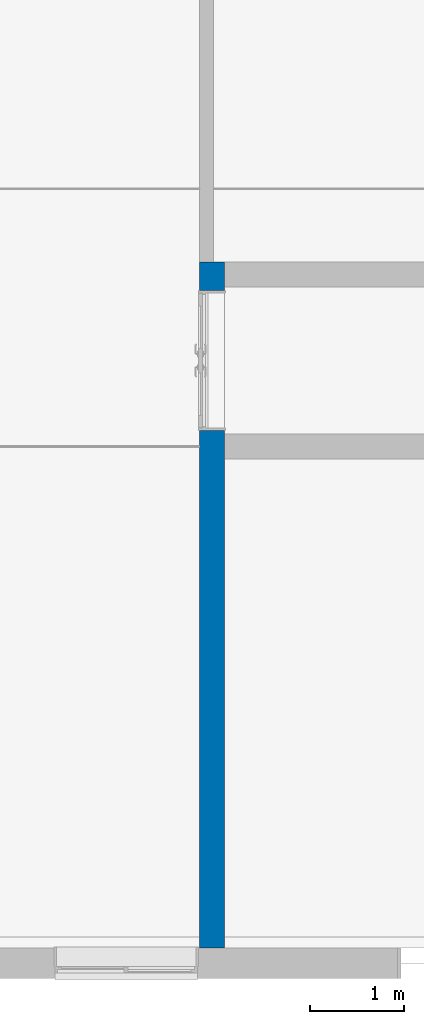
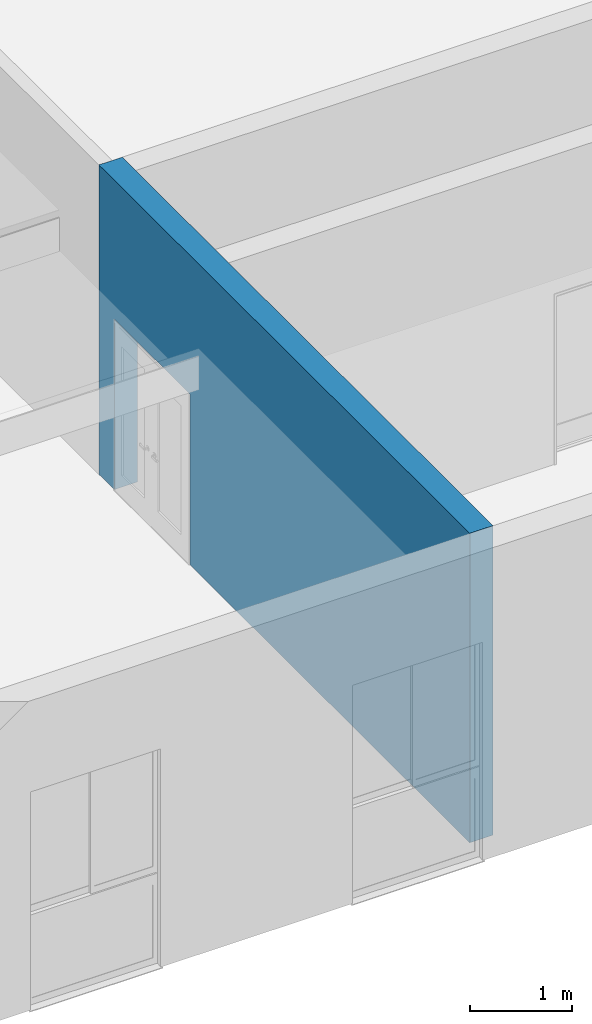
# One storey, part 2 of 15: 1 wall, 1 opening.
"""IFC4X3 building model written with IfcOpenShell, lengths in millimetres."""

import ifcopenshell
import ifcopenshell.guid

model = None  # the IFC model being written
_history = None  # IfcOwnerHistory: only IFC2X3 demands one
_inside = {}  # id of a spatial element -> (the spatial element, [elements in it])
_under = {}  # id of a project, library or spatial element -> (it, [spatial elements below it])
_declared = {}  # id of a project -> (the project, [libraries it declares])
_typed = {}  # id of a type object -> (the type object, [elements of that type])
_made_of = {}  # id of a material, layer set ... -> (it, [elements and type objects made of it])


def new_model(schema):
    """Start an empty IFC model of exactly this schema.

    Asked for "IFC4X3", IfcOpenShell would pick the latest addendum, in which some entities
    have other attributes; the version numbers below select the first issue.
    IFC2X3 requires an IfcOwnerHistory on every rooted entity: one is made here for all.
    """
    global model, _history
    if schema == "IFC4X3":
        model = ifcopenshell.file(schema_version=(4, 3, 0, 0))
    else:
        model = ifcopenshell.file(schema=schema)
    _inside.clear()
    _under.clear()
    _declared.clear()
    _typed.clear()
    _made_of.clear()
    _history = None
    if model.schema == "IFC2X3":
        org = make("IfcOrganization", Name="unknown")
        user = make(
            "IfcPersonAndOrganization",
            ThePerson=make("IfcPerson", FamilyName="unknown"),
            TheOrganization=org,
        )
        app = make(
            "IfcApplication",
            ApplicationDeveloper=org,
            Version="unknown",
            ApplicationFullName="unknown",
            ApplicationIdentifier="unknown",
        )
        _history = make(
            "IfcOwnerHistory",
            OwningUser=user,
            OwningApplication=app,
            ChangeAction="ADDED",
            CreationDate=0,
        )
    return model


def make(cls, **values):
    """One entity of the class cls with the attributes given. An attribute that is None is left unset."""
    return model.create_entity(
        cls, **{name: value for name, value in values.items() if value is not None}
    )


def entity(cls, *values):
    """Any entity or typed value of the class cls, its attributes in the order of the schema. None: left unset."""
    e = model.create_entity(cls)
    for i, value in enumerate(values):
        if value is not None:
            e[i] = value
    return e


def rooted(cls, **values):
    """An entity with a GlobalId (a new one), such as an element, a storey or a relation."""
    return make(cls, GlobalId=ifcopenshell.guid.new(), OwnerHistory=_history, **values)


def si_unit(unit_type, name, prefix=None):
    """IfcSIUnit, for example si_unit("LENGTHUNIT", "METRE", prefix="MILLI")."""
    return make("IfcSIUnit", UnitType=unit_type, Prefix=prefix, Name=name)


def converted_unit(unit_type, name, factor, base, dimensions=None, offset=None):
    """IfcConversionBasedUnit, such as the inch: factor (a typed value) times the base unit."""
    return make(
        "IfcConversionBasedUnit"
        if offset is None
        else "IfcConversionBasedUnitWithOffset",
        ConversionOffset=offset,
        Dimensions=None
        if dimensions is None
        else entity("IfcDimensionalExponents", *dimensions),
        UnitType=unit_type,
        Name=name,
        ConversionFactor=make(
            "IfcMeasureWithUnit", ValueComponent=factor, UnitComponent=base
        ),
    )


def derived_unit(unit_type, elements):
    """IfcDerivedUnit: a product of units, each with its exponent."""
    return make(
        "IfcDerivedUnit",
        Elements=[
            make("IfcDerivedUnitElement", Unit=unit, Exponent=power)
            for unit, power in elements
        ],
        UnitType=unit_type,
    )


def assignment(units):
    """IfcUnitAssignment: the units of a project."""
    return None if units is None else make("IfcUnitAssignment", Units=units)


def point(xyz):
    """IfcCartesianPoint."""
    return None if xyz is None else make("IfcCartesianPoint", Coordinates=xyz)


def direction(xyz):
    """IfcDirection."""
    return None if xyz is None else make("IfcDirection", DirectionRatios=xyz)


def frame(location, z_axis=None, x_axis=None):
    """IfcAxis2Placement3D, a coordinate frame: its origin and axes. An axis left out is left unset."""
    return make(
        "IfcAxis2Placement3D",
        Location=point(location),
        Axis=direction(z_axis),
        RefDirection=direction(x_axis),
    )


def frame_2d(location, x_axis=None):
    """IfcAxis2Placement2D, a coordinate frame in the plane: its origin and x axis."""
    return make(
        "IfcAxis2Placement2D", Location=point(location), RefDirection=direction(x_axis)
    )


def origin():
    """The frame at (0, 0, 0) with its axes left unset."""
    return frame((0.0, 0.0, 0.0))


def place(relative_to, where):
    """IfcLocalPlacement: puts the frame where relative to a parent placement (None: the world)."""
    return make(
        "IfcLocalPlacement", PlacementRelTo=relative_to, RelativePlacement=where
    )


def context(
    kind, dimensions, precision=None, world=None, true_north=None, identifier=None
):
    """IfcGeometricRepresentationContext, for example the 3D "Model" context."""
    return make(
        "IfcGeometricRepresentationContext",
        ContextIdentifier=identifier,
        ContextType=kind,
        CoordinateSpaceDimension=dimensions,
        Precision=precision,
        WorldCoordinateSystem=world,
        TrueNorth=true_north,
    )


def subcontext(parent, identifier, kind, view, scale=None):
    """IfcGeometricRepresentationSubContext, for example "Body" below "Model"."""
    return make(
        "IfcGeometricRepresentationSubContext",
        ContextIdentifier=identifier,
        ContextType=kind,
        ParentContext=parent,
        TargetScale=scale,
        TargetView=view,
    )


def project(units=None, contexts=None):
    """IfcProject with its units and contexts."""
    return rooted(
        "IfcProject",
        Name="project",
        RepresentationContexts=contexts,
        UnitsInContext=assignment(units),
    )


def spatial(cls, under=None, at=None, **own):
    """A site, building, storey or space (cls), placed at a placement, below another one or the project."""
    s = rooted(cls, ObjectPlacement=at, **own)
    if under is not None:
        _under.setdefault(under.id(), (under, []))[1].append(s)
    return s


def profile(cls, at=None, kind="AREA", **sizes):
    """A parametric profile (cls). Its sizes go by their IFC names, for example OverallWidth=200.0."""
    return make(cls, ProfileType=kind, Position=at, **sizes)


def rectangle(**sizes):
    """IfcRectangleProfileDef."""
    return profile("IfcRectangleProfileDef", **sizes)


def extrude(swept, where, along, depth):
    """IfcExtrudedAreaSolid: the profile swept, set in the frame where, extruded along a direction by depth."""
    return make(
        "IfcExtrudedAreaSolid",
        SweptArea=swept,
        Position=where,
        ExtrudedDirection=direction(along),
        Depth=depth,
    )


def shape(context_of_items, identifier, shape_type, items):
    """IfcShapeRepresentation: the items that make up one representation, for example the "Body"."""
    return make(
        "IfcShapeRepresentation",
        ContextOfItems=context_of_items,
        RepresentationIdentifier=identifier,
        RepresentationType=shape_type,
        Items=items,
    )


def material(Name=None, Category=None):
    """IfcMaterial."""
    return make("IfcMaterial", Name=Name, Category=Category)


def layer(
    of_material, thickness, ventilated=None, Name=None, Category=None, Priority=None
):
    """IfcMaterialLayer: one layer of a wall or slab, of a material (None: an air gap)."""
    return make(
        "IfcMaterialLayer",
        Material=of_material,
        LayerThickness=thickness,
        IsVentilated=ventilated,
        Name=Name,
        Category=Category,
        Priority=Priority,
    )


def layer_set(layers, Name=None):
    """IfcMaterialLayerSet."""
    return make("IfcMaterialLayerSet", MaterialLayers=layers, LayerSetName=Name)


def made_of(thing, what):
    """Note that an element or type object is made of a material, layer set ...; save() writes the relation."""
    if what is not None:
        _made_of.setdefault(what.id(), (what, []))[1].append(thing)
    return thing


def type_object(cls, material=None, **own):
    """A type object (cls), such as IfcWallType, which elements share."""
    return made_of(rooted(cls, **own), material)


def element(
    cls,
    number,
    at=None,
    inside=None,
    cuts=None,
    type_object=None,
    material=None,
    context=None,
    identifier="Body",
    shape_type=None,
    held_by="IfcProductDefinitionShape",
    body=None,
    shapes=None,
    **own,
):
    """One element of the class cls, such as IfcWall. Its Tag is "e" and its number.

    at: its placement. inside: the storey or other place that contains it. cuts: it is an
    opening in that element (IfcRelVoidsElement). A single representation is given by context,
    identifier, shape_type and body (its items); several are given by shapes. held_by: the class
    of the entity that holds the representations. save() writes the other relations.
    """
    e = rooted(cls, Tag="e%d" % number, ObjectPlacement=at, **own)
    if body is not None:
        shapes = [shape(context, identifier, shape_type, body)]
    if shapes is not None:
        e.Representation = make(held_by, Representations=shapes)
    if inside is not None:
        _inside.setdefault(inside.id(), (inside, []))[1].append(e)
    if cuts is not None:
        rooted(
            "IfcRelVoidsElement", RelatingBuildingElement=cuts, RelatedOpeningElement=e
        )
    if type_object is not None:
        _typed.setdefault(type_object.id(), (type_object, []))[1].append(e)
    return made_of(e, material)


def aggregate(whole, parts):
    """IfcRelAggregates: a whole, such as a stair, and the parts it consists of."""
    return rooted("IfcRelAggregates", RelatingObject=whole, RelatedObjects=parts)


def save(model, path):
    """Write the relations noted so far, then the file.

    IfcRelAggregates (storeys below a building ...), IfcRelContainedInSpatialStructure (elements
    in a storey), IfcRelDefinesByType, IfcRelAssociatesMaterial and IfcRelDeclares: one each for
    every whole, place, type object, material and project.
    """
    for whole, parts in _under.values():
        aggregate(whole, parts)
    for where, things in _inside.values():
        rooted(
            "IfcRelContainedInSpatialStructure",
            RelatedElements=things,
            RelatingStructure=where,
        )
    for kind, things in _typed.values():
        rooted("IfcRelDefinesByType", RelatedObjects=things, RelatingType=kind)
    for what, things in _made_of.values():
        rooted("IfcRelAssociatesMaterial", RelatedObjects=things, RelatingMaterial=what)
    for by, libraries in _declared.values():
        rooted("IfcRelDeclares", RelatingContext=by, RelatedDefinitions=libraries)
    model.write(path)


model = new_model("IFC4X3")

# Units and contexts
model_context = context("Model", 3, precision=0.01, world=origin(), true_north=direction((6.12303176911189e-17, 1.0)))
body_context = subcontext(model_context, "Body", "Model", "MODEL_VIEW")
ifc_project = project(units=[si_unit("LENGTHUNIT", "METRE", prefix="MILLI"), si_unit("AREAUNIT", "SQUARE_METRE"), si_unit("VOLUMEUNIT", "CUBIC_METRE"), converted_unit("PLANEANGLEUNIT", "DEGREE", entity("IfcPlaneAngleMeasure", 0.0174532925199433), si_unit("PLANEANGLEUNIT", "RADIAN"), dimensions=[0, 0, 0, 0, 0, 0, 0]), si_unit("MASSUNIT", "GRAM", prefix="KILO"), derived_unit("MASSDENSITYUNIT", [(si_unit("MASSUNIT", "GRAM", prefix="KILO"), 1), (si_unit("LENGTHUNIT", "METRE"), -3)]), derived_unit("IONCONCENTRATIONUNIT", [(si_unit("MASSUNIT", "GRAM", prefix="KILO"), 1), (si_unit("LENGTHUNIT", "METRE"), -3)]), derived_unit("MOMENTOFINERTIAUNIT", [(si_unit("LENGTHUNIT", "METRE"), 4)]), si_unit("TIMEUNIT", "SECOND"), si_unit("FREQUENCYUNIT", "HERTZ"), si_unit("THERMODYNAMICTEMPERATUREUNIT", "DEGREE_CELSIUS"), derived_unit("THERMALTRANSMITTANCEUNIT", [(si_unit("MASSUNIT", "GRAM", prefix="KILO"), 1), (si_unit("THERMODYNAMICTEMPERATUREUNIT", "KELVIN"), -1), (si_unit("TIMEUNIT", "SECOND"), -3)]), derived_unit("THERMALCONDUCTANCEUNIT", [(si_unit("MASSUNIT", "GRAM", prefix="KILO"), 1), (si_unit("THERMODYNAMICTEMPERATUREUNIT", "KELVIN"), -1), (si_unit("TIMEUNIT", "SECOND"), -3), (si_unit("LENGTHUNIT", "METRE"), 1)]), derived_unit("VOLUMETRICFLOWRATEUNIT", [(si_unit("LENGTHUNIT", "METRE", prefix="DECI"), 3), (si_unit("TIMEUNIT", "SECOND"), -1)]), derived_unit("MASSFLOWRATEUNIT", [(si_unit("MASSUNIT", "GRAM", prefix="KILO"), 1), (si_unit("TIMEUNIT", "SECOND"), -1)]), derived_unit("ROTATIONALFREQUENCYUNIT", [(si_unit("TIMEUNIT", "SECOND"), -1)]), si_unit("ELECTRICCURRENTUNIT", "AMPERE"), si_unit("ELECTRICVOLTAGEUNIT", "VOLT"), si_unit("POWERUNIT", "WATT"), si_unit("FORCEUNIT", "NEWTON", prefix="KILO"), si_unit("ILLUMINANCEUNIT", "LUX"), si_unit("LUMINOUSFLUXUNIT", "LUMEN"), si_unit("LUMINOUSINTENSITYUNIT", "CANDELA"), si_unit("ENERGYUNIT", "JOULE"), derived_unit("USERDEFINED", [(si_unit("MASSUNIT", "GRAM", prefix="KILO"), -1), (si_unit("LENGTHUNIT", "METRE"), -2), (si_unit("TIMEUNIT", "SECOND"), 3), (si_unit("LUMINOUSFLUXUNIT", "LUMEN"), 1)]), derived_unit("USERDEFINED", [(si_unit("MASSUNIT", "GRAM", prefix="KILO"), 1), (si_unit("TIMEUNIT", "SECOND"), -3), (si_unit("LENGTHUNIT", "METRE"), 3), (si_unit("ELECTRICCURRENTUNIT", "AMPERE"), -2)]), derived_unit("SOUNDPOWERUNIT", [(si_unit("MASSUNIT", "GRAM", prefix="KILO"), 1), (si_unit("TIMEUNIT", "SECOND"), -3), (si_unit("LENGTHUNIT", "METRE"), 2)]), derived_unit("SOUNDPRESSUREUNIT", [(si_unit("MASSUNIT", "GRAM", prefix="KILO"), 1), (si_unit("LENGTHUNIT", "METRE"), -1), (si_unit("TIMEUNIT", "SECOND"), -2)]), derived_unit("LINEARVELOCITYUNIT", [(si_unit("LENGTHUNIT", "METRE"), 1), (si_unit("TIMEUNIT", "SECOND"), -1)]), si_unit("PRESSUREUNIT", "PASCAL"), derived_unit("USERDEFINED", [(si_unit("MASSUNIT", "GRAM", prefix="KILO"), 1), (si_unit("LENGTHUNIT", "METRE"), -2), (si_unit("TIMEUNIT", "SECOND"), -2)]), derived_unit("LINEARFORCEUNIT", [(si_unit("MASSUNIT", "GRAM", prefix="KILO"), 1), (si_unit("TIMEUNIT", "SECOND"), -2)]), derived_unit("PLANARFORCEUNIT", [(si_unit("MASSUNIT", "GRAM", prefix="KILO"), 1), (si_unit("LENGTHUNIT", "METRE"), -1), (si_unit("TIMEUNIT", "SECOND"), -2)]), derived_unit("SPECIFICHEATCAPACITYUNIT", [(si_unit("THERMODYNAMICTEMPERATUREUNIT", "KELVIN"), -1), (si_unit("LENGTHUNIT", "METRE"), 2), (si_unit("TIMEUNIT", "SECOND"), -2)]), derived_unit("HEATFLUXDENSITYUNIT", [(si_unit("MASSUNIT", "GRAM", prefix="KILO"), 1), (si_unit("TIMEUNIT", "SECOND"), -3)]), derived_unit("HEATINGVALUEUNIT", [(si_unit("LENGTHUNIT", "METRE"), 2), (si_unit("TIMEUNIT", "SECOND"), -2)]), derived_unit("VAPORPERMEABILITYUNIT", [(si_unit("LENGTHUNIT", "METRE"), -1), (si_unit("TIMEUNIT", "SECOND"), 1)]), derived_unit("DYNAMICVISCOSITYUNIT", [(si_unit("MASSUNIT", "GRAM", prefix="KILO"), 1), (si_unit("TIMEUNIT", "SECOND"), -1), (si_unit("LENGTHUNIT", "METRE"), -1)]), derived_unit("THERMALEXPANSIONCOEFFICIENTUNIT", [(si_unit("THERMODYNAMICTEMPERATUREUNIT", "KELVIN"), -1)]), derived_unit("MODULUSOFELASTICITYUNIT", [(si_unit("MASSUNIT", "GRAM", prefix="KILO"), 1), (si_unit("LENGTHUNIT", "METRE"), -1), (si_unit("TIMEUNIT", "SECOND"), -2)]), derived_unit("ISOTHERMALMOISTURECAPACITYUNIT", [(si_unit("MASSUNIT", "GRAM", prefix="KILO"), -1), (si_unit("LENGTHUNIT", "METRE"), 3)]), derived_unit("MOISTUREDIFFUSIVITYUNIT", [(si_unit("TIMEUNIT", "SECOND"), -1), (si_unit("LENGTHUNIT", "METRE"), 2)]), derived_unit("AREADENSITYUNIT", [(si_unit("MASSUNIT", "GRAM", prefix="KILO"), 1), (si_unit("LENGTHUNIT", "METRE"), 2)]), derived_unit("MASSPERLENGTHUNIT", [(si_unit("MASSUNIT", "GRAM", prefix="KILO"), 1), (si_unit("LENGTHUNIT", "METRE"), -1)]), derived_unit("THERMALRESISTANCEUNIT", [(si_unit("MASSUNIT", "GRAM", prefix="KILO"), -1), (si_unit("TIMEUNIT", "SECOND"), 3), (si_unit("THERMODYNAMICTEMPERATUREUNIT", "KELVIN"), 1)]), derived_unit("ACCELERATIONUNIT", [(si_unit("LENGTHUNIT", "METRE"), 1), (si_unit("TIMEUNIT", "SECOND"), -2)]), derived_unit("ANGULARVELOCITYUNIT", [(si_unit("TIMEUNIT", "SECOND"), -1), (si_unit("PLANEANGLEUNIT", "RADIAN"), 1)]), derived_unit("LINEARSTIFFNESSUNIT", [(si_unit("MASSUNIT", "GRAM", prefix="KILO"), 1), (si_unit("TIMEUNIT", "SECOND"), -2)]), derived_unit("WARPINGCONSTANTUNIT", [(si_unit("LENGTHUNIT", "METRE"), 6)]), derived_unit("LINEARMOMENTUNIT", [(si_unit("MASSUNIT", "GRAM", prefix="KILO"), 1), (si_unit("LENGTHUNIT", "METRE"), 1), (si_unit("TIMEUNIT", "SECOND"), -2)]), derived_unit("TORQUEUNIT", [(si_unit("MASSUNIT", "GRAM", prefix="KILO"), 1), (si_unit("LENGTHUNIT", "METRE"), 2), (si_unit("TIMEUNIT", "SECOND"), -2)])], contexts=[model_context])

# Site, building, storey
site_placement = place(None, origin())
site = spatial("IfcSite", under=ifc_project, at=site_placement, Name="Default", CompositionType="ELEMENT")
building_placement = place(site_placement, origin())
building = spatial("IfcBuilding", under=site, at=building_placement, Name="事務所ビル", CompositionType="ELEMENT")
storey_placement = place(building_placement, frame((0.0, 0.0, 4300.0)))
storey = spatial("IfcBuildingStorey", under=building, at=storey_placement, Name="2FL", CompositionType="ELEMENT", Elevation=4300.0)

# Wall, opening
ifc_material_1 = material(Name="せっこうボード", Category="一般")
ifc_layer_1 = layer(ifc_material_1, 15.0, Name="せっこうボード", Category="一般")
ifc_material_2 = material(Name="合板", Category="一般")
ifc_layer_2 = layer(ifc_material_2, 12.0, Name="合板", Category="一般")
ifc_material_3 = material(Name="天然木材", Category="一般")
ifc_layer_3 = layer(ifc_material_3, 210.0, Name="天然木材", Category="一般")
ifc_layer_4 = layer(ifc_material_2, 12.0, Name="合板", Category="一般")
ifc_layer_5 = layer(ifc_material_1, 15.0, Name="せっこうボード", Category="一般")
ifc_layer_set = layer_set([ifc_layer_1, ifc_layer_2, ifc_layer_3, ifc_layer_4, ifc_layer_5], Name="標準壁:GB-R15_構造用合板12_木210_構造用合板12_GB-R15")
wall_type = type_object("IfcWallType", Name="標準壁:GB-R15_構造用合板12_木210_構造用合板12_GB-R15", PredefinedType="STANDARD", material=ifc_layer_set)
wall_placement = place(storey_placement, frame((10920.0, 147.0, 0.0), z_axis=(0.0, 0.0, 1.0), x_axis=(0.0, 1.0, 0.0)))
wall = element("IfcWall", 1, at=wall_placement, inside=storey, type_object=wall_type, material=ifc_layer_set, Name="標準壁:GB-R15_構造用合板12_木210_構造用合板12_GB-R15", ObjectType="標準壁:GB-R15_構造用合板12_木210_構造用合板12_GB-R15", PredefinedType="NOTDEFINED", context=body_context, shape_type="SweptSolid", body=[
    extrude(rectangle(XDim=7265.00000000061, YDim=264.000000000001, at=frame_2d((3632.50000000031, -1.4210854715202e-14), x_axis=(1.0, 0.0))), origin(), (0.0, 0.0, 1.0), 3700.0),
])
opening_placement = place(wall_placement, frame((5483.0, -132.0, -15.0)))
element("IfcOpeningElement", 2, at=opening_placement, cuts=wall, Name="鋼製_大枠_両開き_框:1400x2000:1", PredefinedType="OPENING", context=body_context, shape_type="SweptSolid", body=[
    extrude(rectangle(XDim=2055.00000000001, YDim=1480.0, at=frame_2d((1027.5, 740.0), x_axis=(-1.0, 0.0))), frame((0.0, 0.0, 0.0), z_axis=(0.0, 1.0, 0.0), x_axis=(0.0, 0.0, 1.0)), (0.0, 0.0, 1.0), 264.0),
])

save(model, "model.ifc")
